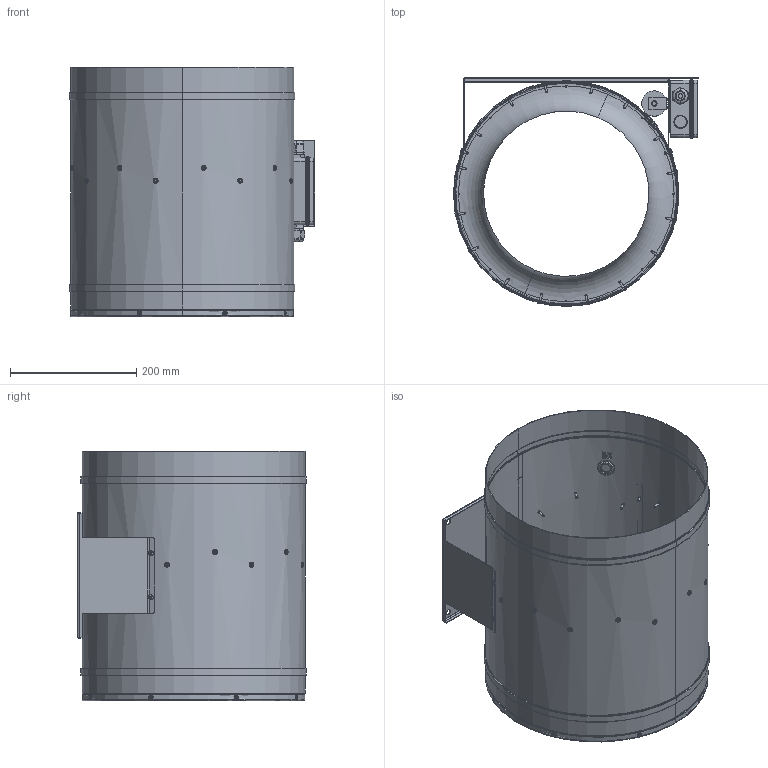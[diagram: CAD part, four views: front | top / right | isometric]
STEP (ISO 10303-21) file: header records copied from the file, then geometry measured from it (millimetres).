
FILE_DESCRIPTION (( 'STEP AP203' ), '1' );
FILE_NAME ('112757-04_EL355E201.STEP', '2013-11-26T11:09:34', ( '' ), ( '' ), 'SwSTEP 2.0', 'SolidWorks 2012', '' );
FILE_SCHEMA (( 'CONFIG_CONTROL_DESIGN' ));
Length unit declared in the file: millimetre
Products named in the file (1): 112757-04_EL355E201
Bounding box: 388.5 x 362.5 x 396 mm (x, y, z)
Surface area: 1168542.7 mm2 (no closed solid volume)
Topology: 0 solids, 77 shells, 656 faces, 2237 edges, 1604 vertices
Faces by surface type: cylinder 259, plane 182, cone 118, torus 76, bspline 21
Entity records: 29516 total; most frequent: CARTESIAN_POINT 10433, DIRECTION 4205, ORIENTED_EDGE 3337, EDGE_CURVE 2233, AXIS2_PLACEMENT_3D 1755, VERTEX_POINT 1602, CIRCLE 1119, EDGE_LOOP 789
